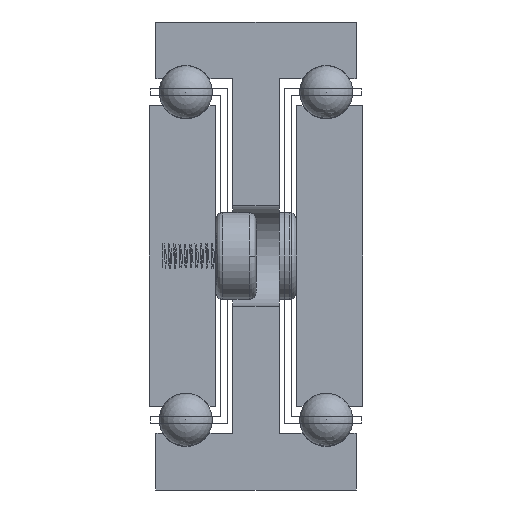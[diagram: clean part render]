
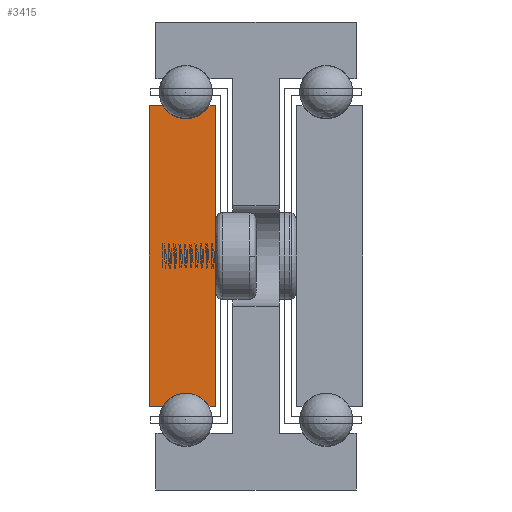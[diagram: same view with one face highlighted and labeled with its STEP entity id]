
A CAD part, front view. The second image highlights one B-rep face of the part: STEP entity #3415.
In plain terms, the highlighted planar face has unit normal (0, -1, 0).
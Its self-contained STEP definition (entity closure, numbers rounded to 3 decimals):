
#220=LINE('',#5130,#432);
#223=LINE('',#5136,#435);
#227=LINE('',#5148,#439);
#230=LINE('',#5154,#442);
#233=LINE('',#5160,#445);
#237=LINE('',#5170,#449);
#432=VECTOR('',#4114,1.);
#435=VECTOR('',#4119,1.);
#439=VECTOR('',#4131,1.);
#442=VECTOR('',#4136,1.);
#445=VECTOR('',#4141,1.);
#449=VECTOR('',#4153,1.);
#649=PLANE('',#3679);
#925=FACE_OUTER_BOUND('',#1143,.T.);
#1143=EDGE_LOOP('',(#2648,#2649,#2650,#2651,#2652,#2653,#2654,#2655));
#1473=CIRCLE('',#3670,4.);
#1475=CIRCLE('',#3676,4.);
#1702=VERTEX_POINT('',#5127);
#1703=VERTEX_POINT('',#5129);
#1705=VERTEX_POINT('',#5135);
#1707=VERTEX_POINT('',#5141);
#1709=VERTEX_POINT('',#5147);
#1711=VERTEX_POINT('',#5153);
#1713=VERTEX_POINT('',#5159);
#1715=VERTEX_POINT('',#5165);
#2124=EDGE_CURVE('',#1703,#1702,#220,.T.);
#2127=EDGE_CURVE('',#1705,#1703,#223,.T.);
#2130=EDGE_CURVE('',#1707,#1705,#1473,.T.);
#2133=EDGE_CURVE('',#1709,#1707,#227,.T.);
#2136=EDGE_CURVE('',#1711,#1709,#230,.T.);
#2139=EDGE_CURVE('',#1713,#1711,#233,.T.);
#2142=EDGE_CURVE('',#1715,#1713,#1475,.T.);
#2145=EDGE_CURVE('',#1702,#1715,#237,.T.);
#2648=ORIENTED_EDGE('',*,*,#2145,.T.);
#2649=ORIENTED_EDGE('',*,*,#2142,.T.);
#2650=ORIENTED_EDGE('',*,*,#2139,.T.);
#2651=ORIENTED_EDGE('',*,*,#2136,.T.);
#2652=ORIENTED_EDGE('',*,*,#2133,.T.);
#2653=ORIENTED_EDGE('',*,*,#2130,.T.);
#2654=ORIENTED_EDGE('',*,*,#2127,.T.);
#2655=ORIENTED_EDGE('',*,*,#2124,.T.);
#3415=ADVANCED_FACE('',(#925),#649,.T.);
#3670=AXIS2_PLACEMENT_3D('',#5142,#4125,#4126);
#3676=AXIS2_PLACEMENT_3D('',#5166,#4147,#4148);
#3679=AXIS2_PLACEMENT_3D('',#5172,#4156,#4157);
#4114=DIRECTION('',(0.,0.,-1.));
#4119=DIRECTION('',(-1.,0.,0.));
#4125=DIRECTION('center_axis',(0.,1.,0.));
#4126=DIRECTION('ref_axis',(-0.866,0.,-0.5));
#4131=DIRECTION('',(-1.,0.,0.));
#4136=DIRECTION('',(0.,0.,1.));
#4141=DIRECTION('',(1.,0.,0.));
#4147=DIRECTION('center_axis',(0.,1.,0.));
#4148=DIRECTION('ref_axis',(0.866,0.,0.5));
#4153=DIRECTION('',(1.,0.,0.));
#4156=DIRECTION('center_axis',(0.,-1.,0.));
#4157=DIRECTION('ref_axis',(1.,0.,0.));
#5127=CARTESIAN_POINT('',(-3155.358,197.531,352.5));
#5129=CARTESIAN_POINT('',(-3155.358,197.531,397.5));
#5130=CARTESIAN_POINT('',(-3155.358,197.531,352.5));
#5135=CARTESIAN_POINT('',(-3153.322,197.531,397.5));
#5136=CARTESIAN_POINT('',(-3155.358,197.531,397.5));
#5141=CARTESIAN_POINT('',(-3146.394,197.531,397.5));
#5142=CARTESIAN_POINT('Origin',(-3149.858,197.531,399.5));
#5147=CARTESIAN_POINT('',(-3145.358,197.531,397.5));
#5148=CARTESIAN_POINT('',(-3146.394,197.531,397.5));
#5153=CARTESIAN_POINT('',(-3145.358,197.531,352.5));
#5154=CARTESIAN_POINT('',(-3145.358,197.531,397.5));
#5159=CARTESIAN_POINT('',(-3146.394,197.531,352.5));
#5160=CARTESIAN_POINT('',(-3145.358,197.531,352.5));
#5165=CARTESIAN_POINT('',(-3153.322,197.531,352.5));
#5166=CARTESIAN_POINT('Origin',(-3149.858,197.531,350.5));
#5170=CARTESIAN_POINT('',(-3153.322,197.531,352.5));
#5172=CARTESIAN_POINT('Origin',(-3150.364,197.531,375.));
